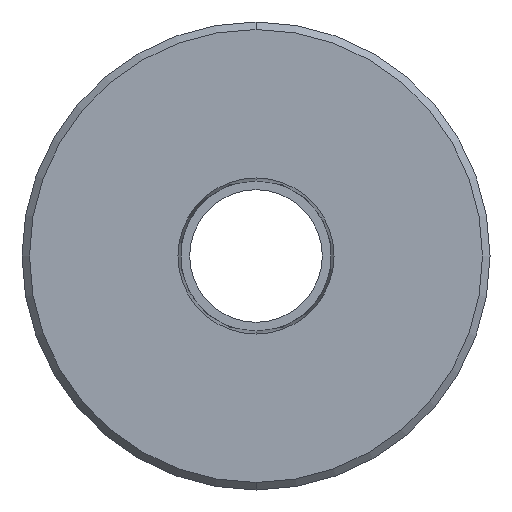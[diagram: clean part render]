
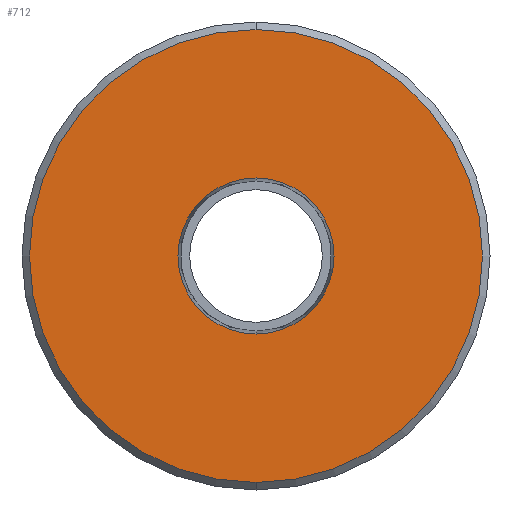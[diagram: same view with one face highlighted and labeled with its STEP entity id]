
A CAD part, front view. The second image highlights one B-rep face of the part: STEP entity #712.
In plain terms, the highlighted planar face has unit normal (0, -1, 0).
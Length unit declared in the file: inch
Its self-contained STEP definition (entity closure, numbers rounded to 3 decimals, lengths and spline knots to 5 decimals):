
#14 = FACE_OUTER_BOUND ( 'NONE', #327, .T. ) ;
#41 = ORIENTED_EDGE ( 'NONE', *, *, #717, .T. ) ;
#128 = FACE_BOUND ( 'NONE', #280, .T. ) ;
#216 = DIRECTION ( 'NONE',  ( 0., -1., 0. ) ) ;
#251 = DIRECTION ( 'NONE',  ( 0., -1., 0. ) ) ;
#259 = AXIS2_PLACEMENT_3D ( 'NONE', #624, #216, #692 ) ;
#280 = EDGE_LOOP ( 'NONE', ( #466, #528 ) ) ;
#327 = EDGE_LOOP ( 'NONE', ( #41, #721 ) ) ;
#381 = VERTEX_POINT ( 'NONE', #750 ) ;
#419 = VERTEX_POINT ( 'NONE', #612 ) ;
#429 = DIRECTION ( 'NONE',  ( 0., 1., 0. ) ) ;
#446 = CIRCLE ( 'NONE', #484, 1.815 ) ;
#457 = CARTESIAN_POINT ( 'NONE',  ( 0., 0., -0.62546 ) ) ;
#466 = ORIENTED_EDGE ( 'NONE', *, *, #906, .F. ) ;
#484 = AXIS2_PLACEMENT_3D ( 'NONE', #666, #251, #741 ) ;
#528 = ORIENTED_EDGE ( 'NONE', *, *, #772, .F. ) ;
#530 = AXIS2_PLACEMENT_3D ( 'NONE', #764, #784, #788 ) ;
#539 = AXIS2_PLACEMENT_3D ( 'NONE', #621, #429, #682 ) ;
#571 = AXIS2_PLACEMENT_3D ( 'NONE', #839, #842, #847 ) ;
#589 = CARTESIAN_POINT ( 'NONE',  ( 0., 0., 0.62546 ) ) ;
#612 = CARTESIAN_POINT ( 'NONE',  ( 0., 0., 1.815 ) ) ;
#613 = PLANE ( 'NONE',  #539 ) ;
#621 = CARTESIAN_POINT ( 'NONE',  ( 0., 0., 0. ) ) ;
#624 = CARTESIAN_POINT ( 'NONE',  ( 0., 0., 0. ) ) ;
#666 = CARTESIAN_POINT ( 'NONE',  ( 0., 0., 0. ) ) ;
#682 = DIRECTION ( 'NONE',  ( 0., 0., 1. ) ) ;
#692 = DIRECTION ( 'NONE',  ( 0., 0., -1. ) ) ;
#712 = ADVANCED_FACE ( 'NONE', ( #14, #128 ), #613, .F. ) ;
#717 = EDGE_CURVE ( 'NONE', #419, #381, #877, .T. ) ;
#721 = ORIENTED_EDGE ( 'NONE', *, *, #801, .T. ) ;
#741 = DIRECTION ( 'NONE',  ( 0., 0., 1. ) ) ;
#748 = CIRCLE ( 'NONE', #530, 0.62546 ) ;
#750 = CARTESIAN_POINT ( 'NONE',  ( 0., 0., -1.815 ) ) ;
#764 = CARTESIAN_POINT ( 'NONE',  ( 0., 0., 0. ) ) ;
#766 = CIRCLE ( 'NONE', #259, 0.62546 ) ;
#772 = EDGE_CURVE ( 'NONE', #859, #897, #748, .T. ) ;
#784 = DIRECTION ( 'NONE',  ( 0., -1., 0. ) ) ;
#788 = DIRECTION ( 'NONE',  ( 0., 0., -1. ) ) ;
#801 = EDGE_CURVE ( 'NONE', #381, #419, #446, .T. ) ;
#839 = CARTESIAN_POINT ( 'NONE',  ( 0., 0., 0. ) ) ;
#842 = DIRECTION ( 'NONE',  ( 0., -1., 0. ) ) ;
#847 = DIRECTION ( 'NONE',  ( 0., 0., 1. ) ) ;
#859 = VERTEX_POINT ( 'NONE', #589 ) ;
#877 = CIRCLE ( 'NONE', #571, 1.815 ) ;
#897 = VERTEX_POINT ( 'NONE', #457 ) ;
#906 = EDGE_CURVE ( 'NONE', #897, #859, #766, .T. ) ;
